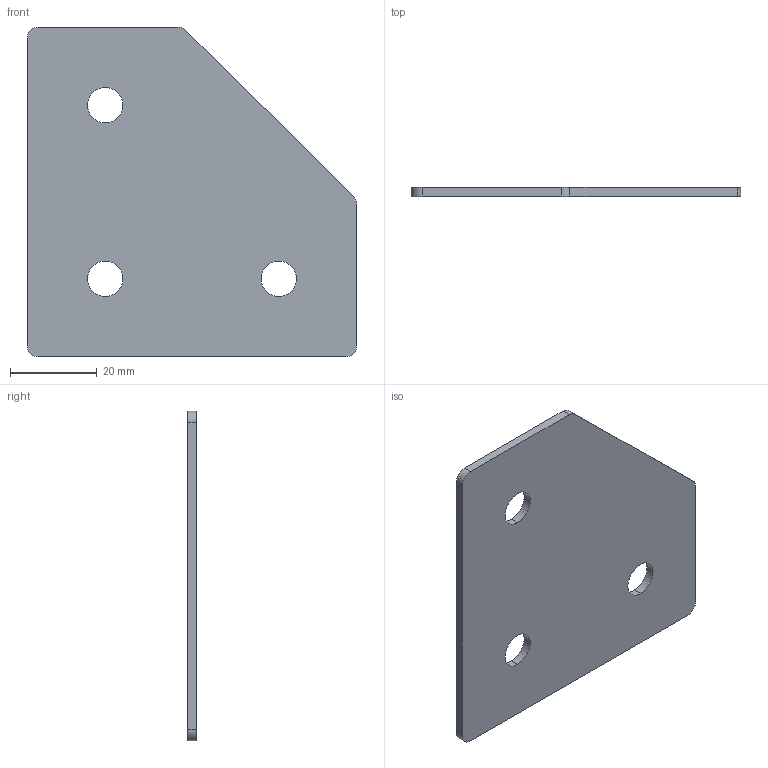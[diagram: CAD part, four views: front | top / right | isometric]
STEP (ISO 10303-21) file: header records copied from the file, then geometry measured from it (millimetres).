
FILE_DESCRIPTION (( 'STEP AP203' ), '1' );
FILE_NAME ('ﾃ-3-ﾓ-40.STEP', '2016-07-19T10:50:20', ( 'RosInstal-MKM' ), ( '' ), 'SwSTEP 2.0', 'SolidWorks 2014', '' );
FILE_SCHEMA (( 'CONFIG_CONTROL_DESIGN' ));
Length unit declared in the file: millimetre
Products named in the file (1): ﾃ-3-ﾓ-40
Bounding box: 76 x 2 x 76 mm (x, y, z)
Volume: 9626.8 mm3; surface area: 10335.4 mm2
Topology: 1 solids, 1 shells, 18 faces, 48 edges, 32 vertices
Faces by surface type: cylinder 11, plane 7
Entity records: 663 total; most frequent: DIRECTION 108, CARTESIAN_POINT 99, ORIENTED_EDGE 96, EDGE_CURVE 48, AXIS2_PLACEMENT_3D 41, VERTEX_POINT 32, LINE 26, VECTOR 26
